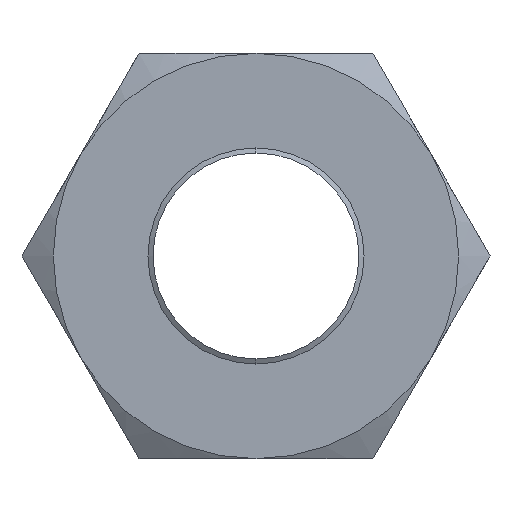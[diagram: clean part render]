
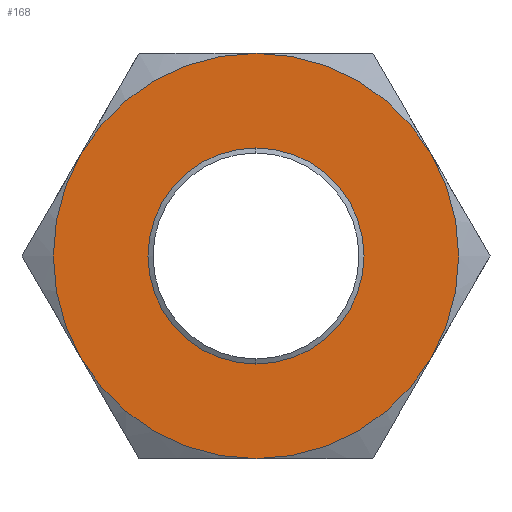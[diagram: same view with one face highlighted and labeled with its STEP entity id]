
A CAD part, front view. The second image highlights one B-rep face of the part: STEP entity #168.
In plain terms, the highlighted planar face has unit normal (0, -1, 0).
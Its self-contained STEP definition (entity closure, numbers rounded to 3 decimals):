
#62 = ORIENTED_EDGE ( 'NONE', *, *, #223, .F. ) ;
#63 = EDGE_LOOP ( 'NONE', ( #64, #62 ) ) ;
#64 = ORIENTED_EDGE ( 'NONE', *, *, #170, .F. ) ;
#66 = EDGE_CURVE ( 'NONE', #160, #250, #993, .T. ) ;
#154 = VERTEX_POINT ( 'NONE', #380 ) ;
#155 = ORIENTED_EDGE ( 'NONE', *, *, #156, .F. ) ;
#156 = EDGE_CURVE ( 'NONE', #157, #154, #379, .T. ) ;
#157 = VERTEX_POINT ( 'NONE', #374 ) ;
#158 = EDGE_CURVE ( 'NONE', #154, #162, #373, .T. ) ;
#159 = EDGE_CURVE ( 'NONE', #162, #161, #368, .T. ) ;
#160 = VERTEX_POINT ( 'NONE', #363 ) ;
#161 = VERTEX_POINT ( 'NONE', #362 ) ;
#162 = VERTEX_POINT ( 'NONE', #361 ) ;
#163 = ORIENTED_EDGE ( 'NONE', *, *, #159, .F. ) ;
#164 = ORIENTED_EDGE ( 'NONE', *, *, #158, .F. ) ;
#165 = EDGE_CURVE ( 'NONE', #161, #160, #359, .T. ) ;
#166 = ORIENTED_EDGE ( 'NONE', *, *, #165, .F. ) ;
#168 = ADVANCED_FACE ( 'NONE', ( #360, #354 ), #353, .F. ) ;
#169 = EDGE_LOOP ( 'NONE', ( #166, #163, #164, #155, #252, #253 ) ) ;
#170 = EDGE_CURVE ( 'NONE', #212, #176, #411, .T. ) ;
#176 = VERTEX_POINT ( 'NONE', #407 ) ;
#212 = VERTEX_POINT ( 'NONE', #463 ) ;
#223 = EDGE_CURVE ( 'NONE', #176, #212, #448, .T. ) ;
#250 = VERTEX_POINT ( 'NONE', #521 ) ;
#251 = EDGE_CURVE ( 'NONE', #250, #157, #518, .T. ) ;
#252 = ORIENTED_EDGE ( 'NONE', *, *, #251, .F. ) ;
#253 = ORIENTED_EDGE ( 'NONE', *, *, #66, .F. ) ;
#352 = AXIS2_PLACEMENT_3D ( 'NONE', #414, #413, #412 ) ;
#353 = PLANE ( 'NONE',  #352 ) ;
#354 = FACE_BOUND ( 'NONE', #63, .T. ) ;
#355 = DIRECTION ( 'NONE',  ( 0., 0., 1. ) ) ;
#356 = DIRECTION ( 'NONE',  ( 0., 1., 0. ) ) ;
#357 = CARTESIAN_POINT ( 'NONE',  ( 0., 0., 0. ) ) ;
#358 = AXIS2_PLACEMENT_3D ( 'NONE', #357, #356, #355 ) ;
#359 = CIRCLE ( 'NONE', #358, 37.5 ) ;
#360 = FACE_OUTER_BOUND ( 'NONE', #169, .T. ) ;
#361 = CARTESIAN_POINT ( 'NONE',  ( -32.476, 0., 18.75 ) ) ;
#362 = CARTESIAN_POINT ( 'NONE',  ( 0., 0., 37.5 ) ) ;
#363 = CARTESIAN_POINT ( 'NONE',  ( 32.476, 0., 18.75 ) ) ;
#364 = DIRECTION ( 'NONE',  ( 0., 0., 1. ) ) ;
#365 = DIRECTION ( 'NONE',  ( 0., 1., 0. ) ) ;
#366 = CARTESIAN_POINT ( 'NONE',  ( 0., 0., 0. ) ) ;
#367 = AXIS2_PLACEMENT_3D ( 'NONE', #366, #365, #364 ) ;
#368 = CIRCLE ( 'NONE', #367, 37.5 ) ;
#369 = DIRECTION ( 'NONE',  ( 0., 0., 1. ) ) ;
#370 = DIRECTION ( 'NONE',  ( 0., 1., 0. ) ) ;
#371 = CARTESIAN_POINT ( 'NONE',  ( 0., 0., 0. ) ) ;
#372 = AXIS2_PLACEMENT_3D ( 'NONE', #371, #370, #369 ) ;
#373 = CIRCLE ( 'NONE', #372, 37.5 ) ;
#374 = CARTESIAN_POINT ( 'NONE',  ( 0., 0., -37.5 ) ) ;
#375 = DIRECTION ( 'NONE',  ( 0., 0., 1. ) ) ;
#376 = DIRECTION ( 'NONE',  ( 0., 1., 0. ) ) ;
#377 = CARTESIAN_POINT ( 'NONE',  ( 0., 0., 0. ) ) ;
#378 = AXIS2_PLACEMENT_3D ( 'NONE', #377, #376, #375 ) ;
#379 = CIRCLE ( 'NONE', #378, 37.5 ) ;
#380 = CARTESIAN_POINT ( 'NONE',  ( -32.476, 0., -18.75 ) ) ;
#407 = CARTESIAN_POINT ( 'NONE',  ( 0., 0., 19.05 ) ) ;
#408 = DIRECTION ( 'NONE',  ( 0., 0., -1. ) ) ;
#409 = DIRECTION ( 'NONE',  ( 0., -1., 0. ) ) ;
#410 = AXIS2_PLACEMENT_3D ( 'NONE', #415, #409, #408 ) ;
#411 = CIRCLE ( 'NONE', #410, 19.05 ) ;
#412 = DIRECTION ( 'NONE',  ( 0., 0., 1. ) ) ;
#413 = DIRECTION ( 'NONE',  ( 0., 1., 0. ) ) ;
#414 = CARTESIAN_POINT ( 'NONE',  ( 21.651, 0., -37.5 ) ) ;
#415 = CARTESIAN_POINT ( 'NONE',  ( 0., 0., 0. ) ) ;
#446 = CARTESIAN_POINT ( 'NONE',  ( 0., 0., 0. ) ) ;
#447 = AXIS2_PLACEMENT_3D ( 'NONE', #446, #504, #503 ) ;
#448 = CIRCLE ( 'NONE', #447, 19.05 ) ;
#463 = CARTESIAN_POINT ( 'NONE',  ( 0., 0., -19.05 ) ) ;
#503 = DIRECTION ( 'NONE',  ( 0., 0., -1. ) ) ;
#504 = DIRECTION ( 'NONE',  ( 0., -1., 0. ) ) ;
#515 = DIRECTION ( 'NONE',  ( 0., 1., 0. ) ) ;
#516 = CARTESIAN_POINT ( 'NONE',  ( 0., 0., 0. ) ) ;
#517 = AXIS2_PLACEMENT_3D ( 'NONE', #516, #515, #562 ) ;
#518 = CIRCLE ( 'NONE', #517, 37.5 ) ;
#521 = CARTESIAN_POINT ( 'NONE',  ( 32.476, 0., -18.75 ) ) ;
#562 = DIRECTION ( 'NONE',  ( 0., 0., 1. ) ) ;
#989 = DIRECTION ( 'NONE',  ( 0., 0., 1. ) ) ;
#990 = DIRECTION ( 'NONE',  ( 0., 1., 0. ) ) ;
#991 = CARTESIAN_POINT ( 'NONE',  ( 0., 0., 0. ) ) ;
#992 = AXIS2_PLACEMENT_3D ( 'NONE', #991, #990, #989 ) ;
#993 = CIRCLE ( 'NONE', #992, 37.5 ) ;
